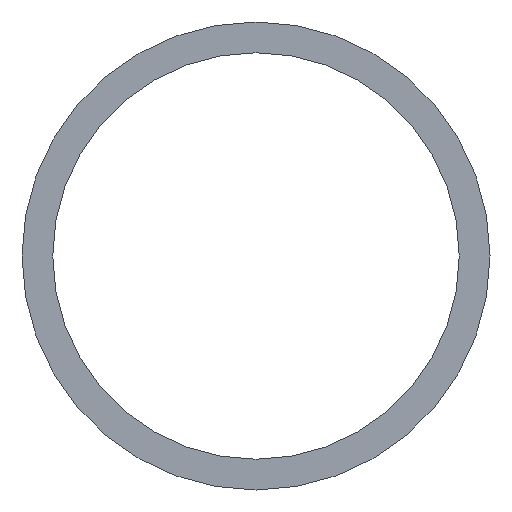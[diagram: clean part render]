
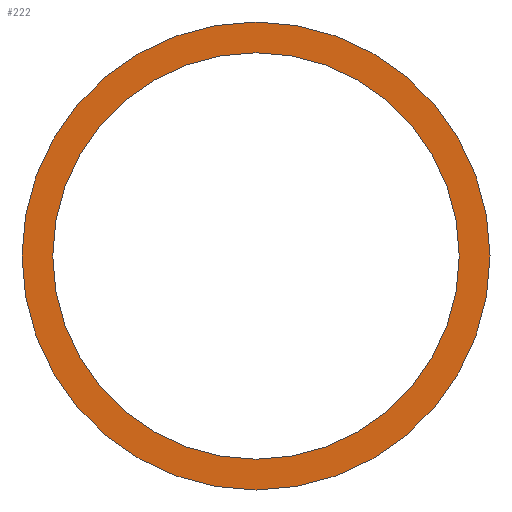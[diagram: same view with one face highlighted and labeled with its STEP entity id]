
A CAD part, front view. The second image highlights one B-rep face of the part: STEP entity #222.
In plain terms, the highlighted planar face has unit normal (0, -1, 0).
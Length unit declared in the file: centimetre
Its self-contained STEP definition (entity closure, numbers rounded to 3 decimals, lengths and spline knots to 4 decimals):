
#4 = ORIENTED_EDGE ( 'NONE', *, *, #244, .F. ) ;
#7 = ORIENTED_EDGE ( 'NONE', *, *, #109, .F. ) ;
#8 = ORIENTED_EDGE ( 'NONE', *, *, #248, .F. ) ;
#17 = EDGE_LOOP ( 'NONE', ( #4, #7 ) ) ;
#19 = EDGE_LOOP ( 'NONE', ( #25, #8 ) ) ;
#25 = ORIENTED_EDGE ( 'NONE', *, *, #246, .F. ) ;
#57 = CIRCLE ( 'NONE', #116, 6.0236 ) ;
#65 = FACE_OUTER_BOUND ( 'NONE', #17, .T. ) ;
#66 = VERTEX_POINT ( 'NONE', #157 ) ;
#71 = VERTEX_POINT ( 'NONE', #211 ) ;
#72 = VERTEX_POINT ( 'NONE', #183 ) ;
#75 = CIRCLE ( 'NONE', #114, 5.2324 ) ;
#76 = CIRCLE ( 'NONE', #129, 6.0236 ) ;
#80 = VERTEX_POINT ( 'NONE', #152 ) ;
#85 = FACE_BOUND ( 'NONE', #19, .T. ) ;
#103 = CIRCLE ( 'NONE', #111, 5.2324 ) ;
#109 = EDGE_CURVE ( 'NONE', #66, #80, #57, .T. ) ;
#111 = AXIS2_PLACEMENT_3D ( 'NONE', #193, #196, #175 ) ;
#114 = AXIS2_PLACEMENT_3D ( 'NONE', #205, #203, #207 ) ;
#116 = AXIS2_PLACEMENT_3D ( 'NONE', #172, #201, #184 ) ;
#117 = AXIS2_PLACEMENT_3D ( 'NONE', #155, #186, #188 ) ;
#129 = AXIS2_PLACEMENT_3D ( 'NONE', #131, #133, #139 ) ;
#131 = CARTESIAN_POINT ( 'NONE',  ( 0., -0.1016, 0. ) ) ;
#133 = DIRECTION ( 'NONE',  ( 0., 1., 0. ) ) ;
#139 = DIRECTION ( 'NONE',  ( 0., 0., 1. ) ) ;
#152 = CARTESIAN_POINT ( 'NONE',  ( 0., -0.1016, 6.0236 ) ) ;
#155 = CARTESIAN_POINT ( 'NONE',  ( 0., -0.1016, 0. ) ) ;
#157 = CARTESIAN_POINT ( 'NONE',  ( 0., -0.1016, -6.0236 ) ) ;
#172 = CARTESIAN_POINT ( 'NONE',  ( 0., -0.1016, 0. ) ) ;
#175 = DIRECTION ( 'NONE',  ( 0., 0., 1. ) ) ;
#183 = CARTESIAN_POINT ( 'NONE',  ( 0., -0.1016, 5.2324 ) ) ;
#184 = DIRECTION ( 'NONE',  ( 0., 0., 1. ) ) ;
#186 = DIRECTION ( 'NONE',  ( 0., 1., 0. ) ) ;
#188 = DIRECTION ( 'NONE',  ( 0., 0., 1. ) ) ;
#193 = CARTESIAN_POINT ( 'NONE',  ( 0., -0.1016, 0. ) ) ;
#196 = DIRECTION ( 'NONE',  ( 0., -1., 0. ) ) ;
#199 = PLANE ( 'NONE',  #117 ) ;
#201 = DIRECTION ( 'NONE',  ( 0., 1., 0. ) ) ;
#203 = DIRECTION ( 'NONE',  ( 0., -1., 0. ) ) ;
#205 = CARTESIAN_POINT ( 'NONE',  ( 0., -0.1016, 0. ) ) ;
#207 = DIRECTION ( 'NONE',  ( 0., 0., 1. ) ) ;
#211 = CARTESIAN_POINT ( 'NONE',  ( 0., -0.1016, -5.2324 ) ) ;
#222 = ADVANCED_FACE ( 'NONE', ( #65, #85 ), #199, .F. ) ;
#244 = EDGE_CURVE ( 'NONE', #80, #66, #76, .T. ) ;
#246 = EDGE_CURVE ( 'NONE', #72, #71, #75, .T. ) ;
#248 = EDGE_CURVE ( 'NONE', #71, #72, #103, .T. ) ;
